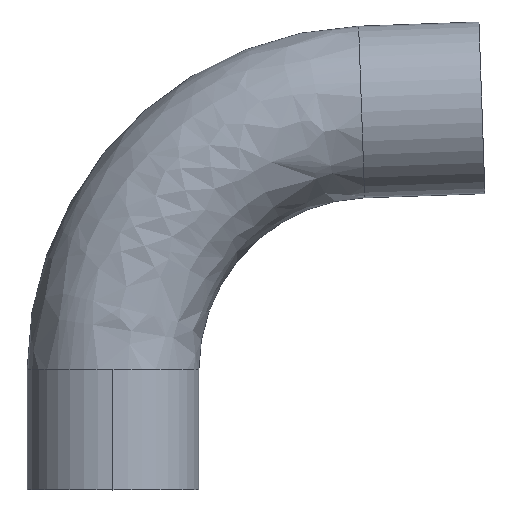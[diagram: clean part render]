
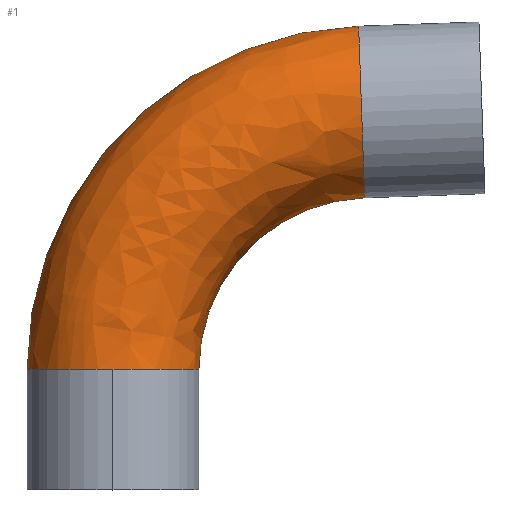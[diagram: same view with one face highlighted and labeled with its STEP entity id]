
A CAD part, top view. The second image highlights one B-rep face of the part: STEP entity #1.
In plain terms, the highlighted free-form (B-spline) face has degree [3, 3] with [4, 4] control points.
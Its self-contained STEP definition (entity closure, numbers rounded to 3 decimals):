
#1 = ADVANCED_FACE ( 'NONE', ( #427 ), #21, .T. ) ;
#10 = CARTESIAN_POINT ( 'NONE',  ( 31.75, 80.651, 0. ) ) ;
#19 = CARTESIAN_POINT ( 'NONE',  ( 91.926, 139.667, 0. ) ) ;
#20 = EDGE_CURVE ( 'NONE', #243, #249, #134, .T. ) ;
#21 =( BOUNDED_SURFACE ( )  B_SPLINE_SURFACE ( 3, 3, ( 
 ( #426, #440, #58, #344 ),
 ( #271, #502, #225, #42 ),
 ( #421, #456, #448, #290 ),
 ( #404, #10, #202, #266 ) ),
 .UNSPECIFIED., .F., .F., .T. ) 
 B_SPLINE_SURFACE_WITH_KNOTS ( ( 4, 4 ),
 ( 4, 4 ),
 ( 0., 1. ),
 ( 0., 1. ),
 .UNSPECIFIED. ) 
 GEOMETRIC_REPRESENTATION_ITEM ( )  RATIONAL_B_SPLINE_SURFACE ( (
 ( 1., 0.813, 0.813, 1.),
 ( 0.333, 0.271, 0.271, 0.333),
 ( 0.333, 0.271, 0.271, 0.333),
 ( 1., 0.813, 0.813, 1.) ) ) 
 REPRESENTATION_ITEM ( '' )  SURFACE ( )  );
#23 = DIRECTION ( 'NONE',  ( -0.999, -0.035, 0. ) ) ;
#33 = EDGE_LOOP ( 'NONE', ( #359, #478, #35, #80, #93 ) ) ;
#34 = DIRECTION ( 'NONE',  ( -0.035, 0.999, 0. ) ) ;
#35 = ORIENTED_EDGE ( 'NONE', *, *, #185, .T. ) ;
#42 = CARTESIAN_POINT ( 'NONE',  ( 90.818, 171.398, 63.5 ) ) ;
#45 = CIRCLE ( 'NONE', #193, 31.75 ) ;
#53 = CIRCLE ( 'NONE', #455, 127. ) ;
#57 = VERTEX_POINT ( 'NONE', #310 ) ;
#58 = CARTESIAN_POINT ( 'NONE',  ( 18.51, 168.873, 0. ) ) ;
#64 = DIRECTION ( 'NONE',  ( 0., 1., 0. ) ) ;
#69 = VERTEX_POINT ( 'NONE', #499 ) ;
#74 = DIRECTION ( 'NONE',  ( -1., 0., 0. ) ) ;
#80 = ORIENTED_EDGE ( 'NONE', *, *, #217, .F. ) ;
#93 = ORIENTED_EDGE ( 'NONE', *, *, #20, .T. ) ;
#110 = CARTESIAN_POINT ( 'NONE',  ( -31.75, 44.475, 0. ) ) ;
#132 = EDGE_CURVE ( 'NONE', #203, #69, #254, .T. ) ;
#133 = CARTESIAN_POINT ( 'NONE',  ( 0., 44.475, 0. ) ) ;
#134 = CIRCLE ( 'NONE', #336, 31.75 ) ;
#156 = CARTESIAN_POINT ( 'NONE',  ( 0., 44.475, 31.75 ) ) ;
#166 = CARTESIAN_POINT ( 'NONE',  ( 0., 44.475, 0. ) ) ;
#178 = CIRCLE ( 'NONE', #294, 31.75 ) ;
#185 = EDGE_CURVE ( 'NONE', #69, #57, #45, .T. ) ;
#193 = AXIS2_PLACEMENT_3D ( 'NONE', #19, #23, #34 ) ;
#202 = CARTESIAN_POINT ( 'NONE',  ( 56.88, 106.674, 0. ) ) ;
#203 = VERTEX_POINT ( 'NONE', #279 ) ;
#208 = DIRECTION ( 'NONE',  ( 0., 1., 0. ) ) ;
#217 = EDGE_CURVE ( 'NONE', #243, #57, #53, .T. ) ;
#225 = CARTESIAN_POINT ( 'NONE',  ( 18.51, 168.873, 63.5 ) ) ;
#243 = VERTEX_POINT ( 'NONE', #110 ) ;
#249 = VERTEX_POINT ( 'NONE', #156 ) ;
#254 = CIRCLE ( 'NONE', #389, 63.5 ) ;
#266 = CARTESIAN_POINT ( 'NONE',  ( 93.034, 107.936, 0. ) ) ;
#271 = CARTESIAN_POINT ( 'NONE',  ( -31.75, 44.475, 63.5 ) ) ;
#279 = CARTESIAN_POINT ( 'NONE',  ( 31.75, 44.475, 0. ) ) ;
#290 = CARTESIAN_POINT ( 'NONE',  ( 93.034, 107.936, 63.5 ) ) ;
#292 = DIRECTION ( 'NONE',  ( -1., 0., 0. ) ) ;
#294 = AXIS2_PLACEMENT_3D ( 'NONE', #133, #208, #324 ) ;
#310 = CARTESIAN_POINT ( 'NONE',  ( 90.818, 171.398, 0. ) ) ;
#318 = EDGE_CURVE ( 'NONE', #249, #203, #178, .T. ) ;
#324 = DIRECTION ( 'NONE',  ( -1., 0., 0. ) ) ;
#334 = DIRECTION ( 'NONE',  ( 0., 0., -1. ) ) ;
#336 = AXIS2_PLACEMENT_3D ( 'NONE', #166, #64, #74 ) ;
#344 = CARTESIAN_POINT ( 'NONE',  ( 90.818, 171.398, 0. ) ) ;
#356 = CARTESIAN_POINT ( 'NONE',  ( 95.25, 44.475, 0. ) ) ;
#359 = ORIENTED_EDGE ( 'NONE', *, *, #318, .T. ) ;
#389 = AXIS2_PLACEMENT_3D ( 'NONE', #356, #398, #391 ) ;
#391 = DIRECTION ( 'NONE',  ( -1., 0., 0. ) ) ;
#398 = DIRECTION ( 'NONE',  ( 0., 0., -1. ) ) ;
#404 = CARTESIAN_POINT ( 'NONE',  ( 31.75, 44.475, 0. ) ) ;
#421 = CARTESIAN_POINT ( 'NONE',  ( 31.75, 44.475, 63.5 ) ) ;
#426 = CARTESIAN_POINT ( 'NONE',  ( -31.75, 44.475, 0. ) ) ;
#427 = FACE_OUTER_BOUND ( 'NONE', #33, .T. ) ;
#435 = CARTESIAN_POINT ( 'NONE',  ( 95.25, 44.475, 0. ) ) ;
#440 = CARTESIAN_POINT ( 'NONE',  ( -31.75, 116.827, 0. ) ) ;
#448 = CARTESIAN_POINT ( 'NONE',  ( 56.88, 106.674, 63.5 ) ) ;
#455 = AXIS2_PLACEMENT_3D ( 'NONE', #435, #334, #292 ) ;
#456 = CARTESIAN_POINT ( 'NONE',  ( 31.75, 80.651, 63.5 ) ) ;
#478 = ORIENTED_EDGE ( 'NONE', *, *, #132, .T. ) ;
#499 = CARTESIAN_POINT ( 'NONE',  ( 93.034, 107.936, 0. ) ) ;
#502 = CARTESIAN_POINT ( 'NONE',  ( -31.75, 116.827, 63.5 ) ) ;
